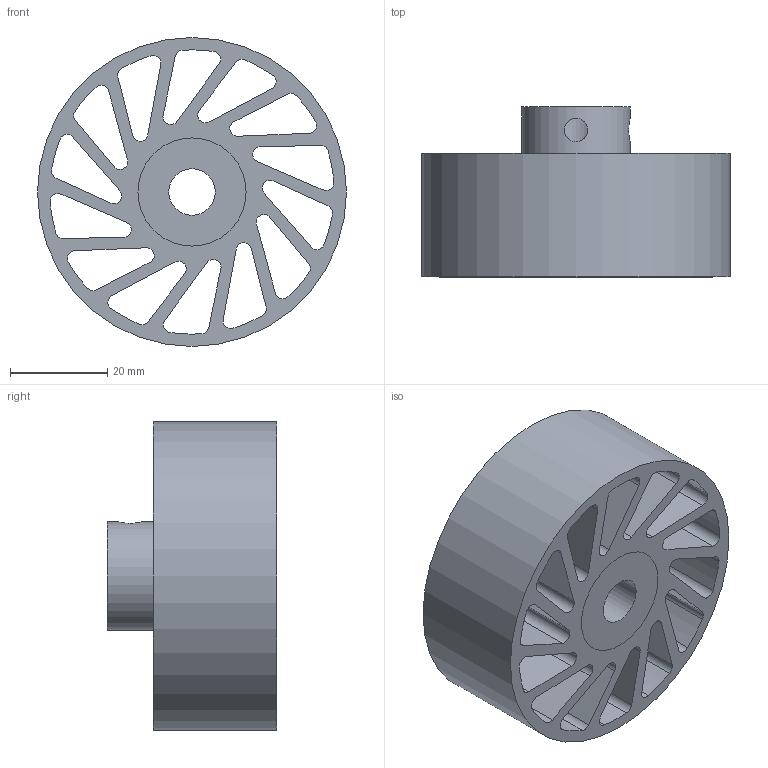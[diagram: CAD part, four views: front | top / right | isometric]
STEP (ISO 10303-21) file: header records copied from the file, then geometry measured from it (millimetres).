
FILE_DESCRIPTION(/* description */ (''),/* implementation_level */ '2;1');
FILE_NAME(/* name */ 'NCW-310-XXX-YYY.stp',/* time_stamp */ '2023-02-01T16:58:14-06:00',/* author */ ('AG'),/* organization */ ('Meridian Laboratory'),/* preprocessor_version */ 'ST-DEVELOPER v18.1',/* originating_system */ 'Autodesk Inventor 2022',/* authorisation */ '');
FILE_SCHEMA (('AUTOMOTIVE_DESIGN { 1 0 10303 214 3 1 1 }'));
Length unit declared in the file: inch
Products named in the file (1): NCW-300
Bounding box: 63.5 x 34.92 x 63.5 mm (x, y, z)
Volume: 46068.8 mm3; surface area: 29233.2 mm2
Topology: 2 solids, 2 shells, 94 faces, 276 edges, 186 vertices
Faces by surface type: cylinder 62, plane 32
Full cylindrical faces by diameter (mm): 4.826 x2, 9.538 x1, 22.225 x2, 63.5 x1
Entity records: 3538 total; most frequent: CARTESIAN_POINT 697, DIRECTION 576, ORIENTED_EDGE 552, EDGE_CURVE 276, AXIS2_PLACEMENT_3D 215, VERTEX_POINT 186, LINE 146, VECTOR 146
